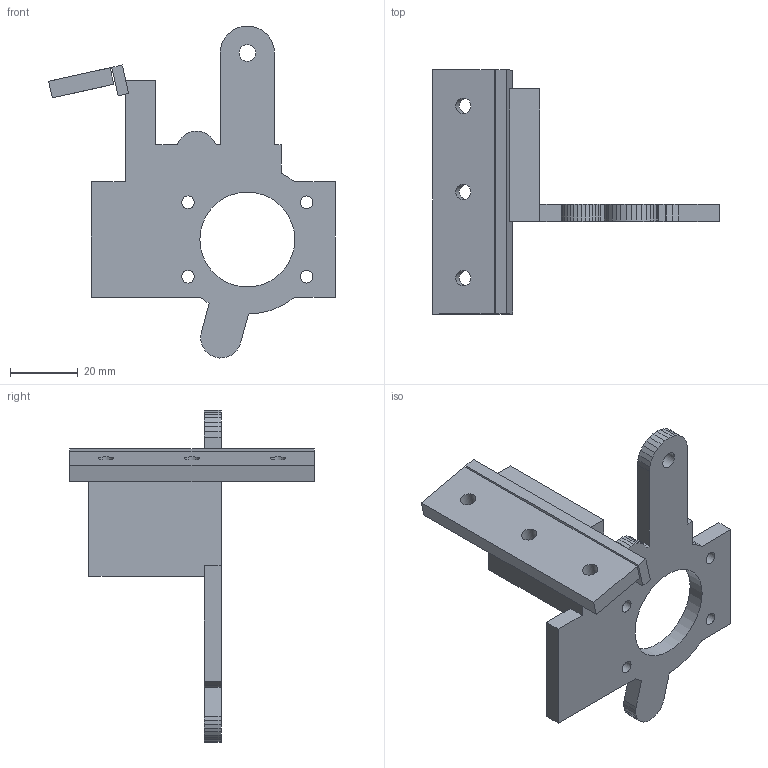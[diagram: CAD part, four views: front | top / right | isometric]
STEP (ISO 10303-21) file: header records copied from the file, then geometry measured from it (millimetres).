
FILE_DESCRIPTION(('Open CASCADE Model'),'2;1');
FILE_NAME('Open CASCADE Shape Model','2026-10-16T00:29:51',('Author'),( 'Open CASCADE'),'Open CASCADE STEP processor 7.9','Open CASCADE 7.9' ,'Unknown');
FILE_SCHEMA(('AUTOMOTIVE_DESIGN { 1 0 10303 214 1 1 1 1 }'));
Length unit declared in the file: millimetre
Products named in the file (3): Open CASCADE STEP translator 7.9 3; Open CASCADE STEP translator 7.9 3.1; Open CASCADE STEP translator 7.9 3.2
Assembly tree (2 placements, depth 2):
  Open CASCADE STEP translator 7.9 3
    Open CASCADE STEP translator 7.9 3.1
    Open CASCADE STEP translator 7.9 3.2
Bounding box: 84.64 x 72 x 97.96 mm (x, y, z)
Volume: 34776.5 mm3; surface area: 17047.9 mm2
Topology: 2 solids, 2 shells, 102 faces, 294 edges, 196 vertices
Faces by surface type: plane 93, cylinder 9
Full cylindrical faces by diameter (mm): 3.7 x4, 4.6 x3, 4.9 x1, 28 x1
Entity records: 7236 total; most frequent: CARTESIAN_POINT 1307, DIRECTION 1076, LINE 830, VECTOR 830, ORIENTED_EDGE 588, PCURVE 588, DEFINITIONAL_REPRESENTATION 588, EDGE_CURVE 294
